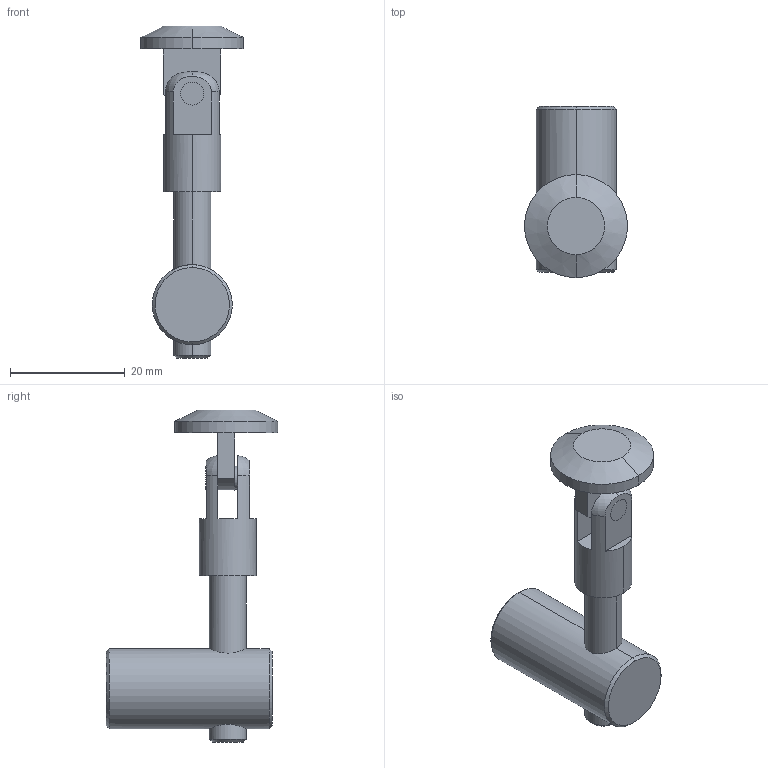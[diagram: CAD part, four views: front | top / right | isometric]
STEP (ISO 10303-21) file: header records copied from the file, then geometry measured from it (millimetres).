
FILE_DESCRIPTION (( 'STEP AP203' ), '1' );
FILE_NAME ('5124.STEP', '2016-10-02T15:27:22', ( '' ), ( '' ), 'SwSTEP 2.0', 'SolidWorks 2014', '' );
FILE_SCHEMA (( 'CONFIG_CONTROL_DESIGN' ));
Length unit declared in the file: millimetre
Products named in the file (5): 5124; 333; shapka; 222; 444
Assembly tree (4 placements, depth 2):
  5124
    222
    333
    444
    shapka
Bounding box: 18 x 29.99 x 57.99 mm (x, y, z)
Volume: 6673.2 mm3; surface area: 5200.6 mm2
Topology: 5 solids, 5 shells, 75 faces, 171 edges, 106 vertices
Faces by surface type: plane 32, cylinder 25, cone 10, torus 8
Entity records: 2962 total; most frequent: CARTESIAN_POINT 771, DIRECTION 361, ORIENTED_EDGE 342, EDGE_CURVE 171, AXIS2_PLACEMENT_3D 140, VERTEX_POINT 106, LINE 81, VECTOR 81
